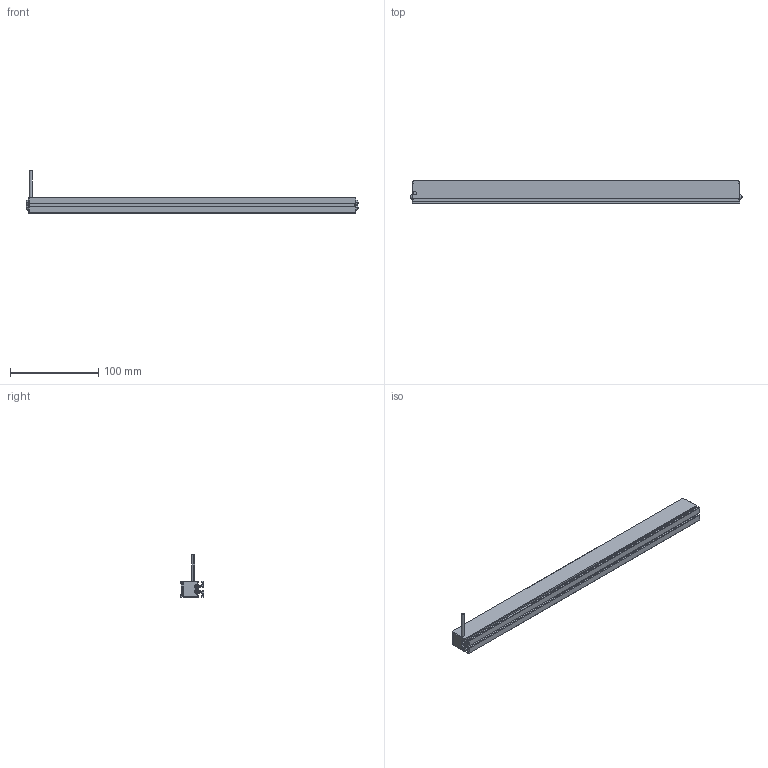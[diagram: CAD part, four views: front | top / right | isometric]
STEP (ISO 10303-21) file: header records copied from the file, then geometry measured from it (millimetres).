
FILE_DESCRIPTION((''),'2;1');
FILE_NAME('MV-LLDS-372-18_ASM','2020-12-30T',('Administrator'),(''),'PRO/ENGINEER BY PARAMETRIC TECHNOLOGY CORPORATION, 2010100','PRO/ENGINEER BY PARAMETRIC TECHNOLOGY CORPORATION, 2010100','');
FILE_SCHEMA(('CONFIG_CONTROL_DESIGN'));
Length unit declared in the file: millimetre
Products named in the file (3): BL_2_-_2_; M3-5_3; MV-LLDS-372-18_ASM
Assembly tree (5 placements, depth 2):
  MV-LLDS-372-18_ASM
    BL_2_-_2_
    M3-5_3  x4
Bounding box: 376.68 x 27 x 48 mm (x, y, z)
Volume: 148052.6 mm3; surface area: 66591 mm2
Topology: 5 solids, 13 shells, 327 faces, 872 edges, 560 vertices
Faces by surface type: plane 213, cylinder 66, cone 16, bspline 16, torus 8, sphere 8
Entity records: 7493 total; most frequent: CARTESIAN_POINT 1575, ORIENTED_EDGE 1214, DIRECTION 1184, EDGE_CURVE 617, VECTOR 472, LINE 472, VERTEX_POINT 401, AXIS2_PLACEMENT_3D 356
